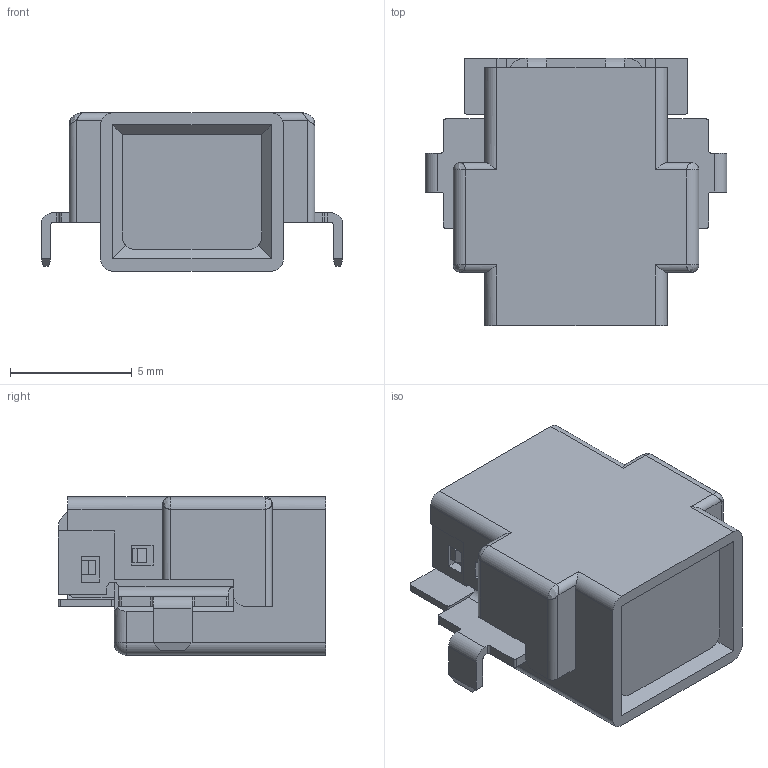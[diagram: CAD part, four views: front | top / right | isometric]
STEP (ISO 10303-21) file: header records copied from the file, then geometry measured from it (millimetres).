
FILE_DESCRIPTION((''),'2;1');
FILE_NAME('CRS5001-3202F','2013-11-07T',('en-yo'),(''),'PRO/ENGINEER BY PARAMETRIC TECHNOLOGY CORPORATION, 2011220','PRO/ENGINEER BY PARAMETRIC TECHNOLOGY CORPORATION, 2011220','');
FILE_SCHEMA(('AUTOMOTIVE_DESIGN_CC2 { 1 2 10303 214 -1 1 5 2 }'));
Length unit declared in the file: millimetre
Products named in the file (1): CRS5001-3202F
Bounding box: 12.4 x 11 x 6.5 mm (x, y, z)
Volume: 509.1 mm3; surface area: 922.1 mm2
Topology: 1 solids, 1 shells, 370 faces, 1065 edges, 687 vertices
Faces by surface type: plane 259, cylinder 100, cone 5, bspline 4, sphere 2
Entity records: 15070 total; most frequent: CARTESIAN_POINT 2632, ORIENTED_EDGE 2126, DIRECTION 1946, EDGE_CURVE 1063, VECTOR 792, LINE 792, VERTEX_POINT 687, AXIS2_PLACEMENT_3D 577
